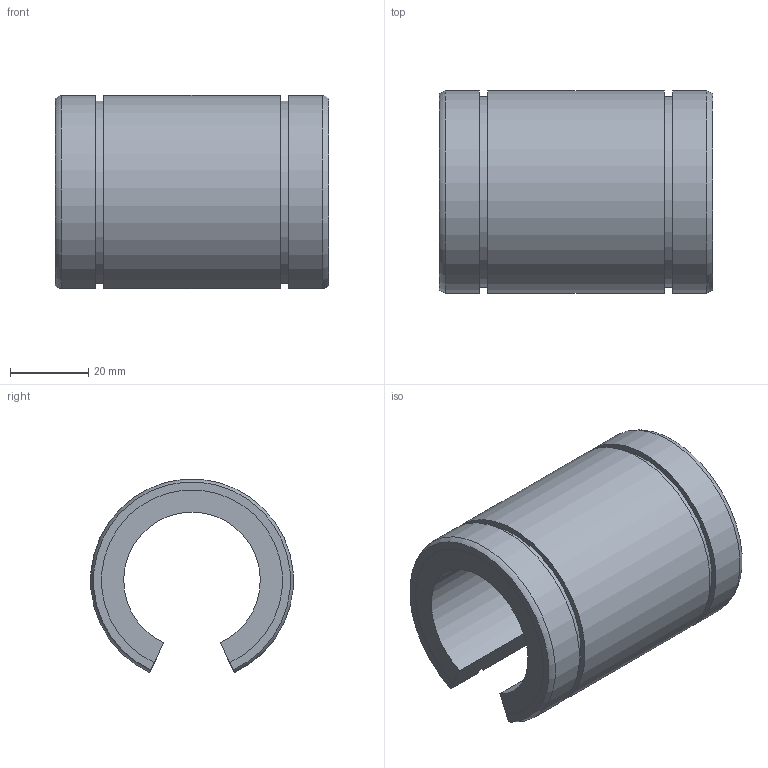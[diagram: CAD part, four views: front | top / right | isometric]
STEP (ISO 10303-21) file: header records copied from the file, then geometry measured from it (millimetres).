
FILE_DESCRIPTION((''),'2;1');
FILE_NAME('D:\製品 (図面)\カタログ用3D\リニアベアリング関連\STEP形式\L-OP\L35-OP.stp','2010-06-04T09:36:44',('Tsuchiya'),(''),'Autodesk Inventor 10','Autodesk Inventor 10','');
FILE_SCHEMA(('AUTOMOTIVE_DESIGN { 1 0 10303 214 1 1 1 1 }'));
Length unit declared in the file: millimetre
Products named in the file (1): L35-OP
Bounding box: 70 x 51.82 x 49.53 mm (x, y, z)
Volume: 69090.6 mm3; surface area: 20331.9 mm2
Topology: 1 solids, 1 shells, 20 faces, 54 edges, 36 vertices
Faces by surface type: plane 10, cylinder 8, torus 2
Entity records: 687 total; most frequent: CARTESIAN_POINT 147, DIRECTION 110, ORIENTED_EDGE 108, EDGE_CURVE 54, AXIS2_PLACEMENT_3D 39, VERTEX_POINT 36, VECTOR 32, LINE 32
